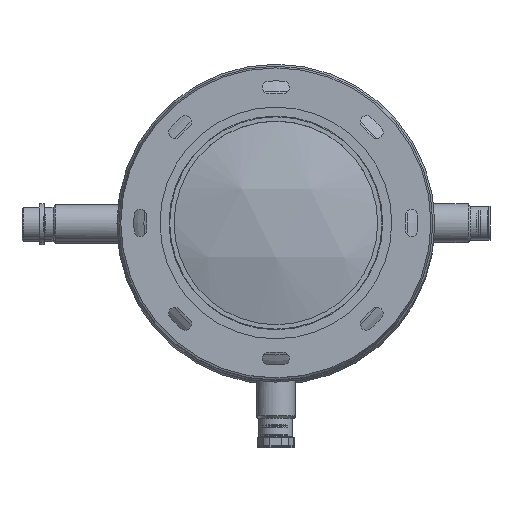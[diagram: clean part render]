
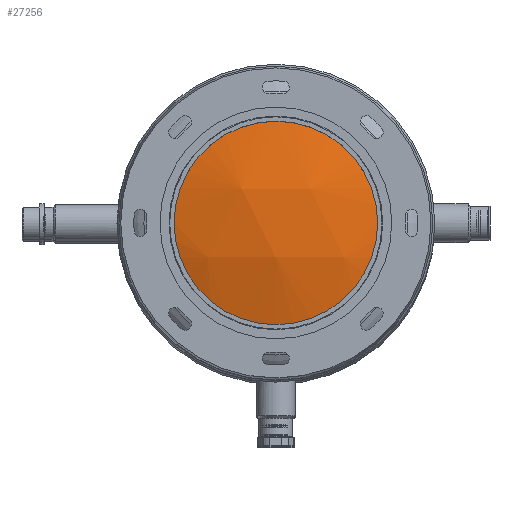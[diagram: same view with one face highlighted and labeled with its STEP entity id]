
A CAD part, top view. The second image highlights one B-rep face of the part: STEP entity #27256.
In plain terms, the highlighted spherical face has radius 334.9 mm.
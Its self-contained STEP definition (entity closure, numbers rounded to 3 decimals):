
#129=SPHERICAL_SURFACE('',#29336,334.9);
#1836=CIRCLE('',#29314,105.05);
#4431=FACE_OUTER_BOUND('',#6059,.T.);
#6059=EDGE_LOOP('',(#24638));
#12920=VERTEX_POINT('',#63973);
#16859=EDGE_CURVE('',#12920,#12920,#1836,.T.);
#24638=ORIENTED_EDGE('',*,*,#16859,.T.);
#27256=ADVANCED_FACE('',(#4431),#129,.T.);
#29314=AXIS2_PLACEMENT_3D('',#63974,#35131,#35132);
#29336=AXIS2_PLACEMENT_3D('',#64011,#35179,#35180);
#35131=DIRECTION('center_axis',(0.,0.,1.));
#35132=DIRECTION('ref_axis',(1.,0.,0.));
#35179=DIRECTION('center_axis',(0.,1.,0.));
#35180=DIRECTION('ref_axis',(-1.,0.,0.));
#63973=CARTESIAN_POINT('',(-105.05,0.,102.687));
#63974=CARTESIAN_POINT('Origin',(0.,0.,102.687));
#64011=CARTESIAN_POINT('Origin',(0.,0.,-215.311));
